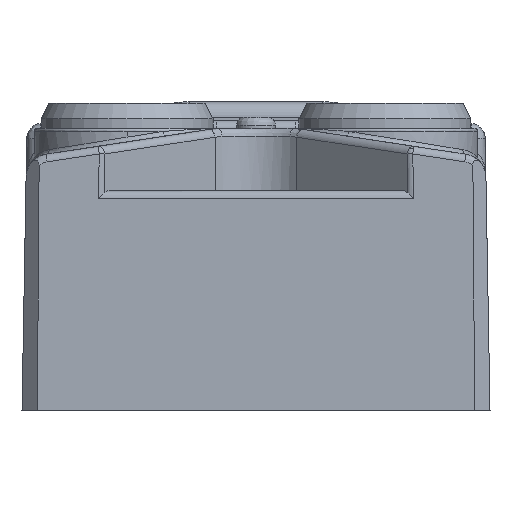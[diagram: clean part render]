
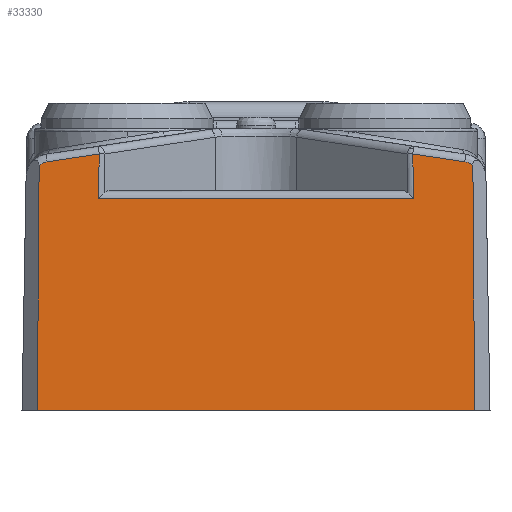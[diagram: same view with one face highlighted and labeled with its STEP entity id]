
A CAD part, front view. The second image highlights one B-rep face of the part: STEP entity #33330.
In plain terms, the highlighted planar face has unit normal (0, -1, 0.018).
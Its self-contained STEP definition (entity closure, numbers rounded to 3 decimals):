
#486 = LINE ( 'NONE', #1130, #13659 ) ;
#1130 = CARTESIAN_POINT ( 'NONE',  ( 13.987, -11.219, -0.85 ) ) ;
#2372 = ORIENTED_EDGE ( 'NONE', *, *, #49488, .T. ) ;
#2680 = VECTOR ( 'NONE', #31310, 1000. ) ;
#3670 = ORIENTED_EDGE ( 'NONE', *, *, #39401, .T. ) ;
#5121 = EDGE_CURVE ( 'NONE', #33702, #19292, #7952, .T. ) ;
#6212 = EDGE_CURVE ( 'NONE', #50605, #33808, #66779, .T. ) ;
#6676 = VECTOR ( 'NONE', #53031, 1000. ) ;
#7952 = LINE ( 'NONE', #25420, #2680 ) ;
#7966 = ORIENTED_EDGE ( 'NONE', *, *, #42635, .T. ) ;
#9089 = CARTESIAN_POINT ( 'NONE',  ( -14.155, -10.931, 15.657 ) ) ;
#9723 = EDGE_CURVE ( 'NONE', #33808, #16243, #30325, .T. ) ;
#11340 = VECTOR ( 'NONE', #63387, 1000. ) ;
#12355 = CARTESIAN_POINT ( 'NONE',  ( -13.874, -10.946, 14.811 ) ) ;
#13448 = CARTESIAN_POINT ( 'NONE',  ( 13.802, -10.945, 14.875 ) ) ;
#13659 = VECTOR ( 'NONE', #68941, 1000. ) ;
#14652 = CARTESIAN_POINT ( 'NONE',  ( 13.874, -10.946, 14.811 ) ) ;
#16062 = CARTESIAN_POINT ( 'NONE',  ( 13.987, -11.219, -0.85 ) ) ;
#16243 = VERTEX_POINT ( 'NONE', #25758 ) ;
#16504 = EDGE_LOOP ( 'NONE', ( #63246, #42229, #44608, #70123, #7966, #60503, #3670, #2372, #67337, #51175 ) ) ;
#18128 = LINE ( 'NONE', #66046, #6676 ) ;
#18412 = CARTESIAN_POINT ( 'NONE',  ( 13.719, -10.944, 14.929 ) ) ;
#18680 = CARTESIAN_POINT ( 'NONE',  ( -11.695, -10.937, 15.305 ) ) ;
#19292 = VERTEX_POINT ( 'NONE', #33423 ) ;
#19848 = CARTESIAN_POINT ( 'NONE',  ( 13.455, -10.942, 15.038 ) ) ;
#23301 = VERTEX_POINT ( 'NONE', #70554 ) ;
#23783 = CARTESIAN_POINT ( 'NONE',  ( 10.03, -10.933, 15.558 ) ) ;
#25420 = CARTESIAN_POINT ( 'NONE',  ( 11.695, -10.937, 15.305 ) ) ;
#25758 = CARTESIAN_POINT ( 'NONE',  ( -13.874, -10.946, 14.811 ) ) ;
#26560 = VECTOR ( 'NONE', #57180, 1000. ) ;
#28302 = LINE ( 'NONE', #53121, #60791 ) ;
#30325 = B_SPLINE_CURVE_WITH_KNOTS ( 'NONE', 3,
 ( #63232, #46042, #56842, #12355 ),
 .UNSPECIFIED., .F., .F.,
 ( 4, 4 ),
 ( 0., 1. ),
 .UNSPECIFIED. ) ;
#31310 = DIRECTION ( 'NONE',  ( -0.989, 0.003, 0.15 ) ) ;
#32001 = LINE ( 'NONE', #56191, #61052 ) ;
#33330 = ADVANCED_FACE ( 'NONE', ( #71514 ), #42828, .T. ) ;
#33423 = CARTESIAN_POINT ( 'NONE',  ( 10.03, -10.933, 15.558 ) ) ;
#33702 = VERTEX_POINT ( 'NONE', #45493 ) ;
#33808 = VERTEX_POINT ( 'NONE', #69532 ) ;
#35130 = CARTESIAN_POINT ( 'NONE',  ( 13.874, -10.946, 14.811 ) ) ;
#36580 = DIRECTION ( 'NONE',  ( -1., 0., 0. ) ) ;
#37903 = DIRECTION ( 'NONE',  ( 0., -0.017, -1. ) ) ;
#39401 = EDGE_CURVE ( 'NONE', #19292, #23301, #43275, .T. ) ;
#40127 = CARTESIAN_POINT ( 'NONE',  ( -10.03, -10.933, 15.558 ) ) ;
#41723 = CARTESIAN_POINT ( 'NONE',  ( -13.987, -11.219, -0.85 ) ) ;
#42229 = ORIENTED_EDGE ( 'NONE', *, *, #61241, .T. ) ;
#42635 = EDGE_CURVE ( 'NONE', #72069, #33702, #72605, .T. ) ;
#42828 = PLANE ( 'NONE',  #45485 ) ;
#42930 = CARTESIAN_POINT ( 'NONE',  ( 13.359, -10.942, 15.052 ) ) ;
#43275 = LINE ( 'NONE', #23783, #26560 ) ;
#43679 = VERTEX_POINT ( 'NONE', #41723 ) ;
#44608 = ORIENTED_EDGE ( 'NONE', *, *, #51231, .T. ) ;
#44689 = CARTESIAN_POINT ( 'NONE',  ( 0., -10.983, 12.709 ) ) ;
#45485 = AXIS2_PLACEMENT_3D ( 'NONE', #9089, #72055, #37903 ) ;
#45493 = CARTESIAN_POINT ( 'NONE',  ( 13.359, -10.942, 15.052 ) ) ;
#46042 = CARTESIAN_POINT ( 'NONE',  ( -13.549, -10.942, 15.024 ) ) ;
#47033 = EDGE_CURVE ( 'NONE', #52991, #72069, #486, .T. ) ;
#48124 = VECTOR ( 'NONE', #36580, 1000. ) ;
#49488 = EDGE_CURVE ( 'NONE', #23301, #68620, #67448, .T. ) ;
#50303 = DIRECTION ( 'NONE',  ( 0.017, 0.017, 1. ) ) ;
#50529 = CARTESIAN_POINT ( 'NONE',  ( -10.08, -10.983, 12.709 ) ) ;
#50605 = VERTEX_POINT ( 'NONE', #40127 ) ;
#51175 = ORIENTED_EDGE ( 'NONE', *, *, #6212, .T. ) ;
#51231 = EDGE_CURVE ( 'NONE', #43679, #52991, #18128, .T. ) ;
#52578 = EDGE_CURVE ( 'NONE', #68620, #50605, #32001, .T. ) ;
#52991 = VERTEX_POINT ( 'NONE', #16062 ) ;
#53031 = DIRECTION ( 'NONE',  ( 1., 0., 0. ) ) ;
#53121 = CARTESIAN_POINT ( 'NONE',  ( -13.874, -10.946, 14.811 ) ) ;
#56191 = CARTESIAN_POINT ( 'NONE',  ( -10.08, -10.983, 12.709 ) ) ;
#56842 = CARTESIAN_POINT ( 'NONE',  ( -13.728, -10.944, 14.941 ) ) ;
#57180 = DIRECTION ( 'NONE',  ( 0.017, -0.017, -1. ) ) ;
#57708 = CARTESIAN_POINT ( 'NONE',  ( 13.546, -10.943, 15.01 ) ) ;
#60503 = ORIENTED_EDGE ( 'NONE', *, *, #5121, .T. ) ;
#60791 = VECTOR ( 'NONE', #70816, 1000. ) ;
#61052 = VECTOR ( 'NONE', #50303, 1000. ) ;
#61241 = EDGE_CURVE ( 'NONE', #16243, #43679, #28302, .T. ) ;
#63232 = CARTESIAN_POINT ( 'NONE',  ( -13.359, -10.942, 15.052 ) ) ;
#63246 = ORIENTED_EDGE ( 'NONE', *, *, #9723, .T. ) ;
#63387 = DIRECTION ( 'NONE',  ( -0.989, -0.003, -0.15 ) ) ;
#66046 = CARTESIAN_POINT ( 'NONE',  ( 0., -11.219, -0.85 ) ) ;
#66779 = LINE ( 'NONE', #18680, #11340 ) ;
#67337 = ORIENTED_EDGE ( 'NONE', *, *, #52578, .T. ) ;
#67448 = LINE ( 'NONE', #44689, #48124 ) ;
#68620 = VERTEX_POINT ( 'NONE', #50529 ) ;
#68941 = DIRECTION ( 'NONE',  ( -0.007, 0.017, 1. ) ) ;
#69532 = CARTESIAN_POINT ( 'NONE',  ( -13.359, -10.942, 15.052 ) ) ;
#70123 = ORIENTED_EDGE ( 'NONE', *, *, #47033, .T. ) ;
#70554 = CARTESIAN_POINT ( 'NONE',  ( 10.08, -10.983, 12.709 ) ) ;
#70816 = DIRECTION ( 'NONE',  ( -0.007, -0.017, -1. ) ) ;
#71514 = FACE_OUTER_BOUND ( 'NONE', #16504, .T. ) ;
#72055 = DIRECTION ( 'NONE',  ( 0., -1., 0.017 ) ) ;
#72069 = VERTEX_POINT ( 'NONE', #14652 ) ;
#72605 = B_SPLINE_CURVE_WITH_KNOTS ( 'NONE', 3,
 ( #35130, #13448, #18412, #57708, #19848, #42930 ),
 .UNSPECIFIED., .F., .F.,
 ( 4, 2, 4 ),
 ( 0., 0.5, 1. ),
 .UNSPECIFIED. ) ;
